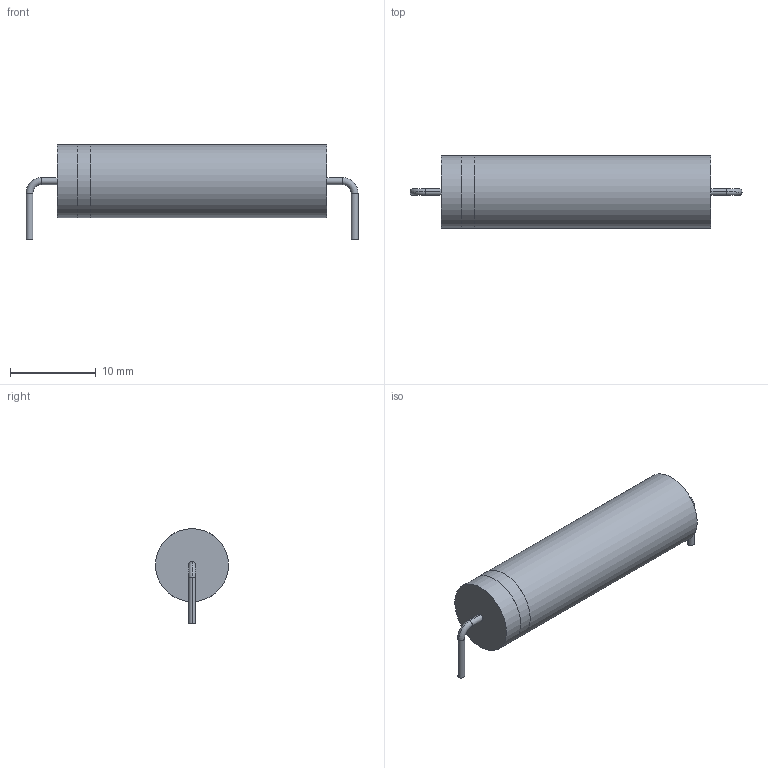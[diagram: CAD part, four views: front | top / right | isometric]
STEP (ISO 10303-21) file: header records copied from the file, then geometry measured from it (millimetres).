
FILE_DESCRIPTION(('STEP AP214'),'1');
FILE_NAME('CAP_MKP_8P5X31P5_VIS','2025-09-26T10:41:42',(''),(''),'','','');
FILE_SCHEMA(('AUTOMOTIVE_DESIGN'));
Length unit declared in the file: millimetre
Products named in the file (1): product
Bounding box: 38.73 x 8.51 x 11.05 mm (x, y, z)
Volume: 1800.9 mm3; surface area: 1090.1 mm2
Topology: 4 solids, 4 shells, 23 faces, 41 edges, 26 vertices
Faces by surface type: cylinder 11, plane 8, torus 4
Full cylindrical faces by diameter (mm): 8.509 x2, 8.514 x1
Entity records: 727 total; most frequent: DIRECTION 118, ORIENTED_EDGE 76, CARTESIAN_POINT 65, AXIS2_PLACEMENT_3D 55, EDGE_CURVE 38, CIRCLE 30, EDGE_LOOP 28, VERTEX_POINT 26
